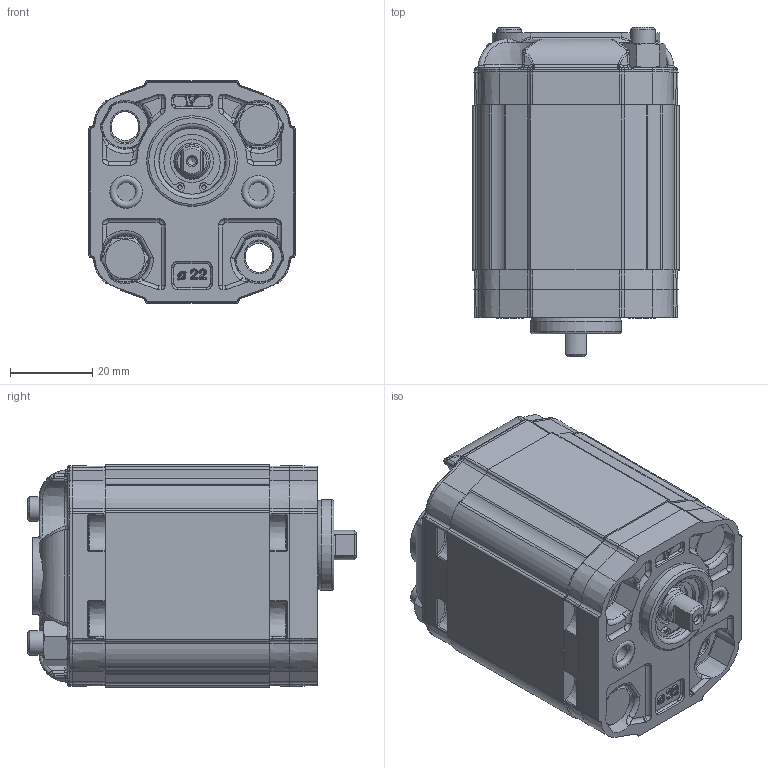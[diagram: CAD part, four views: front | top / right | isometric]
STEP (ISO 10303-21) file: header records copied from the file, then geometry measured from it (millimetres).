
FILE_DESCRIPTION(/* description */ ('Unknown'),/* implementation_level */ '2;1');
FILE_NAME(/* name */ 'X0R1124BZZE',/* time_stamp */ '2026-05-25T17:00:13+02:00',/* author */ ('Unknown'),/* organization */ ('Unknown'),/* preprocessor_version */ 'ST-DEVELOPER v16.7',/* originating_system */ 'Solid Edge',/* authorisation */ 'Unknown');
FILE_SCHEMA (('AUTOMOTIVE_DESIGN {1 0 10303 214 3 1 1}'));
Products named in the file (5): X0R1124BZZE; X0R24; 0B; X0ZZH40; XR017-E
Assembly tree (4 placements, depth 2):
  X0R1124BZZE
    X0R24
    0B
    X0ZZH40
    XR017-E
Bounding box: 50 x 79.8 x 54 mm (x, y, z)
Volume: 148534.3 mm3; surface area: 36821.4 mm2
Topology: 5 solids, 7 shells, 1581 faces, 3841 edges, 2289 vertices
Faces by surface type: cylinder 449, plane 379, bspline 329, cone 227, torus 164, sphere 33
Full cylindrical faces by diameter (mm): 1.053 x2, 2 x1, 5 x2, 6 x4, 6.01 x2, 6.5 x4, 6.511 x1, 6.518 x1, 7.16 x1, 7.5 x2, 7.9 x4, 7.92 x1, 8 x2, 9.318 x1, 10 x2, 10.445 x1, 11 x1, 11.445 x1, 13 x1, 14 x1, 16 x1, 16.2 x1, 16.8 x1, 22 x1
Entity records: 105233 total; most frequent: CARTESIAN_POINT 60331, ORIENTED_EDGE 7310, DIRECTION 6494, EDGE_CURVE 3655, AXIS2_PLACEMENT_3D 2696, VERTEX_POINT 2235, FACE_BOUND 1780, EDGE_LOOP 1779
